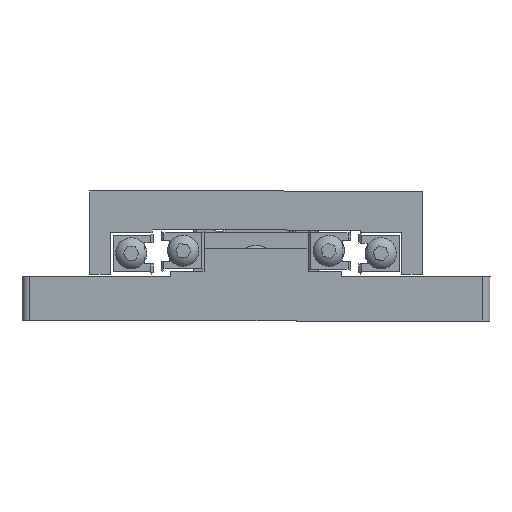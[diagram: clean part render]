
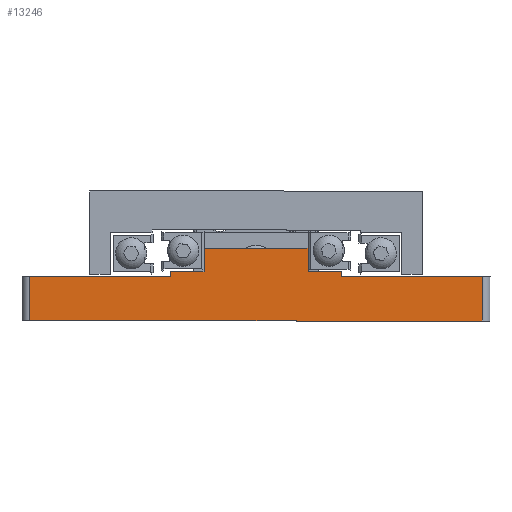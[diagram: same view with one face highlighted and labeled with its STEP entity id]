
A CAD part, left-side view. The second image highlights one B-rep face of the part: STEP entity #13246.
In plain terms, the highlighted planar face has unit normal (-1, 0, 0).
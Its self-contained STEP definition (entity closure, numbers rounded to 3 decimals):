
#231 = EDGE_CURVE ( 'NONE', #5489, #4998, #13677, .T. ) ;
#233 = EDGE_CURVE ( 'NONE', #5360, #5489, #13675, .T. ) ;
#235 = EDGE_CURVE ( 'NONE', #5360, #5136, #13673, .T. ) ;
#236 = EDGE_CURVE ( 'NONE', #8473, #5133, #13669, .T. ) ;
#240 = EDGE_CURVE ( 'NONE', #8467, #5343, #13665, .T. ) ;
#242 = EDGE_CURVE ( 'NONE', #5343, #5136, #13663, .T. ) ;
#282 = EDGE_CURVE ( 'NONE', #5052, #8582, #13598, .T. ) ;
#286 = EDGE_CURVE ( 'NONE', #5027, #4998, #13595, .T. ) ;
#343 = EDGE_CURVE ( 'NONE', #8582, #8467, #13522, .T. ) ;
#347 = EDGE_CURVE ( 'NONE', #5027, #4999, #13551, .T. ) ;
#396 = EDGE_CURVE ( 'NONE', #8473, #5052, #11465, .T. ) ;
#426 = EDGE_CURVE ( 'NONE', #5133, #4999, #11424, .T. ) ;
#981 = CARTESIAN_POINT ( 'NONE',  ( -54.664, -6.258, 1.5 ) ) ;
#982 = DIRECTION ( 'NONE',  ( 0., 0., 1. ) ) ;
#983 = DIRECTION ( 'NONE',  ( 0., 1., 0. ) ) ;
#984 = DIRECTION ( 'NONE',  ( 0., 1., 0. ) ) ;
#985 = CARTESIAN_POINT ( 'NONE',  ( -54.664, -49.758, 1.5 ) ) ;
#990 = CARTESIAN_POINT ( 'NONE',  ( -54.664, -51.258, -7. ) ) ;
#994 = CARTESIAN_POINT ( 'NONE',  ( -54.664, -51.258, 7. ) ) ;
#995 = DIRECTION ( 'NONE',  ( 0., -1., 0. ) ) ;
#997 = DIRECTION ( 'NONE',  ( 0., 1., 0. ) ) ;
#999 = CARTESIAN_POINT ( 'NONE',  ( -54.664, 37.242, -7. ) ) ;
#1005 = CARTESIAN_POINT ( 'NONE',  ( -54.664, -6.258, 1.5 ) ) ;
#1008 = DIRECTION ( 'NONE',  ( 0., 0., -1. ) ) ;
#2820 = CARTESIAN_POINT ( 'NONE',  ( -54.664, 10.242, 1.5 ) ) ;
#3102 = FACE_OUTER_BOUND ( 'NONE', #8315, .T. ) ;
#4141 = CARTESIAN_POINT ( 'NONE',  ( -54.664, -22.758, 1.5 ) ) ;
#4143 = CARTESIAN_POINT ( 'NONE',  ( -54.664, -16.258, 2.5 ) ) ;
#4194 = CARTESIAN_POINT ( 'NONE',  ( -54.664, -22.758, 2.5 ) ) ;
#4238 = CARTESIAN_POINT ( 'NONE',  ( -54.664, 3.742, 2.5 ) ) ;
#4352 = CARTESIAN_POINT ( 'NONE',  ( -54.664, -16.258, 7. ) ) ;
#4357 = CARTESIAN_POINT ( 'NONE',  ( -54.664, 37.242, -7. ) ) ;
#4533 = CARTESIAN_POINT ( 'NONE',  ( -54.664, 37.242, 1.5 ) ) ;
#4542 = CARTESIAN_POINT ( 'NONE',  ( -54.664, -49.758, -7. ) ) ;
#4598 = CARTESIAN_POINT ( 'NONE',  ( -54.664, -49.758, 1.5 ) ) ;
#4998 = VERTEX_POINT ( 'NONE', #4141 ) ;
#4999 = VERTEX_POINT ( 'NONE', #4143 ) ;
#5027 = VERTEX_POINT ( 'NONE', #4194 ) ;
#5052 = VERTEX_POINT ( 'NONE', #4238 ) ;
#5133 = VERTEX_POINT ( 'NONE', #4352 ) ;
#5136 = VERTEX_POINT ( 'NONE', #4357 ) ;
#5343 = VERTEX_POINT ( 'NONE', #4533 ) ;
#5360 = VERTEX_POINT ( 'NONE', #4542 ) ;
#5489 = VERTEX_POINT ( 'NONE', #4598 ) ;
#5910 = AXIS2_PLACEMENT_3D ( 'NONE', #9704, #9709, #9710 ) ;
#6057 = CARTESIAN_POINT ( 'NONE',  ( -54.664, 3.742, 7. ) ) ;
#6129 = CARTESIAN_POINT ( 'NONE',  ( -54.664, 10.242, 2.5 ) ) ;
#8315 = EDGE_LOOP ( 'NONE', ( #14400, #14399, #14398, #14397, #14396, #14395, #14394, #14393, #14392, #14391, #14390, #14389 ) ) ;
#8467 = VERTEX_POINT ( 'NONE', #2820 ) ;
#8473 = VERTEX_POINT ( 'NONE', #6057 ) ;
#8582 = VERTEX_POINT ( 'NONE', #6129 ) ;
#9704 = CARTESIAN_POINT ( 'NONE',  ( -54.664, -6.258, 0. ) ) ;
#9707 = PLANE ( 'NONE',  #5910 ) ;
#9709 = DIRECTION ( 'NONE',  ( -1., 0., 0. ) ) ;
#9710 = DIRECTION ( 'NONE',  ( 0., -1., 0. ) ) ;
#11415 = VECTOR ( 'NONE', #12284, 1000. ) ;
#11424 = LINE ( 'NONE', #12282, #11415 ) ;
#11461 = VECTOR ( 'NONE', #13107, 1000. ) ;
#11465 = LINE ( 'NONE', #13097, #11461 ) ;
#12282 = CARTESIAN_POINT ( 'NONE',  ( -54.664, -16.258, 0. ) ) ;
#12284 = DIRECTION ( 'NONE',  ( 0., 0., -1. ) ) ;
#12807 = CARTESIAN_POINT ( 'NONE',  ( -54.664, -6.258, 2.5 ) ) ;
#12817 = DIRECTION ( 'NONE',  ( 0., 1., 0. ) ) ;
#12818 = CARTESIAN_POINT ( 'NONE',  ( -54.664, -22.758, 0. ) ) ;
#12828 = DIRECTION ( 'NONE',  ( 0., 0., -1. ) ) ;
#12972 = DIRECTION ( 'NONE',  ( 0., 1., 0. ) ) ;
#12980 = CARTESIAN_POINT ( 'NONE',  ( -54.664, 10.242, 0. ) ) ;
#12981 = DIRECTION ( 'NONE',  ( 0., 0., -1. ) ) ;
#12988 = CARTESIAN_POINT ( 'NONE',  ( -54.664, -6.258, 2.5 ) ) ;
#13097 = CARTESIAN_POINT ( 'NONE',  ( -54.664, 3.742, 0. ) ) ;
#13107 = DIRECTION ( 'NONE',  ( 0., 0., -1. ) ) ;
#13246 = ADVANCED_FACE ( 'NONE', ( #3102 ), #9707, .T. ) ;
#13508 = VECTOR ( 'NONE', #12972, 1000. ) ;
#13513 = VECTOR ( 'NONE', #12981, 1000. ) ;
#13522 = LINE ( 'NONE', #12980, #13513 ) ;
#13551 = LINE ( 'NONE', #12988, #13508 ) ;
#13589 = VECTOR ( 'NONE', #12828, 1000. ) ;
#13594 = VECTOR ( 'NONE', #12817, 1000. ) ;
#13595 = LINE ( 'NONE', #12818, #13589 ) ;
#13598 = LINE ( 'NONE', #12807, #13594 ) ;
#13655 = VECTOR ( 'NONE', #1008, 1000. ) ;
#13661 = VECTOR ( 'NONE', #997, 1000. ) ;
#13663 = LINE ( 'NONE', #999, #13655 ) ;
#13665 = LINE ( 'NONE', #1005, #13661 ) ;
#13666 = VECTOR ( 'NONE', #995, 1000. ) ;
#13668 = VECTOR ( 'NONE', #984, 1000. ) ;
#13669 = LINE ( 'NONE', #994, #13666 ) ;
#13671 = VECTOR ( 'NONE', #982, 1000. ) ;
#13673 = LINE ( 'NONE', #990, #13668 ) ;
#13674 = VECTOR ( 'NONE', #983, 1000. ) ;
#13675 = LINE ( 'NONE', #985, #13671 ) ;
#13677 = LINE ( 'NONE', #981, #13674 ) ;
#14389 = ORIENTED_EDGE ( 'NONE', *, *, #242, .T. ) ;
#14390 = ORIENTED_EDGE ( 'NONE', *, *, #240, .T. ) ;
#14391 = ORIENTED_EDGE ( 'NONE', *, *, #343, .T. ) ;
#14392 = ORIENTED_EDGE ( 'NONE', *, *, #282, .T. ) ;
#14393 = ORIENTED_EDGE ( 'NONE', *, *, #396, .T. ) ;
#14394 = ORIENTED_EDGE ( 'NONE', *, *, #236, .F. ) ;
#14395 = ORIENTED_EDGE ( 'NONE', *, *, #426, .F. ) ;
#14396 = ORIENTED_EDGE ( 'NONE', *, *, #347, .T. ) ;
#14397 = ORIENTED_EDGE ( 'NONE', *, *, #286, .F. ) ;
#14398 = ORIENTED_EDGE ( 'NONE', *, *, #231, .T. ) ;
#14399 = ORIENTED_EDGE ( 'NONE', *, *, #233, .T. ) ;
#14400 = ORIENTED_EDGE ( 'NONE', *, *, #235, .F. ) ;
